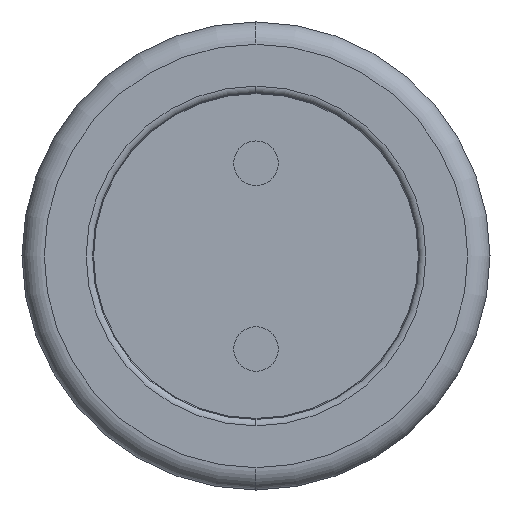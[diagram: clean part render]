
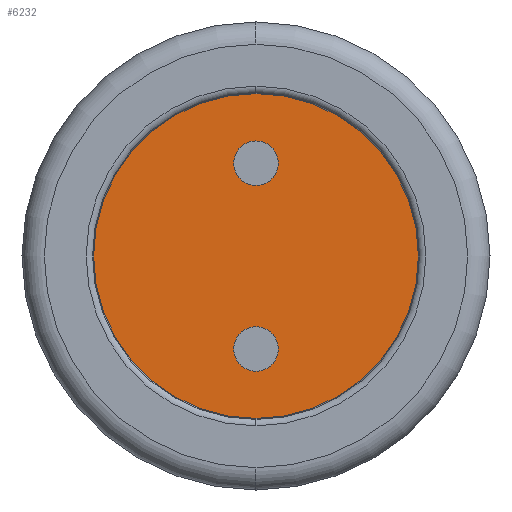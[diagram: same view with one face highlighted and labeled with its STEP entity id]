
A CAD part, left-side view. The second image highlights one B-rep face of the part: STEP entity #6232.
In plain terms, the highlighted planar face has unit normal (-1, 0, 0).
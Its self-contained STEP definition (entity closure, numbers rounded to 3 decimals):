
#40=CARTESIAN_POINT('',(-12.3,0.,0.002));
#41=DIRECTION('',(-1.,0.,0.));
#42=DIRECTION('',(0.,0.,-1.));
#43=AXIS2_PLACEMENT_3D('',#40,#41,#42);
#45=CARTESIAN_POINT('',(-12.3,0.,0.002));
#46=DIRECTION('',(1.,0.,0.));
#47=DIRECTION('',(0.,0.,-1.));
#48=AXIS2_PLACEMENT_3D('',#45,#46,#47);
#50=CARTESIAN_POINT('',(-12.3,0.,-1.25));
#51=DIRECTION('',(-1.,0.,0.));
#52=DIRECTION('',(0.,0.,-1.));
#53=AXIS2_PLACEMENT_3D('',#50,#51,#52);
#55=CARTESIAN_POINT('',(-12.3,0.,-1.25));
#56=DIRECTION('',(-1.,0.,0.));
#57=DIRECTION('',(0.,0.,1.));
#58=AXIS2_PLACEMENT_3D('',#55,#56,#57);
#60=CARTESIAN_POINT('',(-12.3,0.,1.25));
#61=DIRECTION('',(-1.,0.,0.));
#62=DIRECTION('',(0.,0.,-1.));
#63=AXIS2_PLACEMENT_3D('',#60,#61,#62);
#65=CARTESIAN_POINT('',(-12.3,0.,1.25));
#66=DIRECTION('',(-1.,0.,0.));
#67=DIRECTION('',(0.,0.,1.));
#68=AXIS2_PLACEMENT_3D('',#65,#66,#67);
#4685=CARTESIAN_POINT('',(-12.3,0.,-2.198));
#4686=VERTEX_POINT('',#4685);
#4687=CARTESIAN_POINT('',(-12.3,0.,2.202));
#4688=VERTEX_POINT('',#4687);
#4693=CARTESIAN_POINT('',(-12.3,0.,-1.55));
#4694=CARTESIAN_POINT('',(-12.3,0.,-0.95));
#4695=VERTEX_POINT('',#4693);
#4696=VERTEX_POINT('',#4694);
#4697=CARTESIAN_POINT('',(-12.3,0.,0.95));
#4698=CARTESIAN_POINT('',(-12.3,0.,1.55));
#4699=VERTEX_POINT('',#4697);
#4700=VERTEX_POINT('',#4698);
#6211=CARTESIAN_POINT('',(-12.3,0.,0.002));
#6212=DIRECTION('',(1.,0.,0.));
#6213=DIRECTION('',(0.,0.,1.));
#6214=AXIS2_PLACEMENT_3D('',#6211,#6212,#6213);
#6215=PLANE('',#6214);
#6216=ORIENTED_EDGE('',*,*,#6190,.F.);
#6217=ORIENTED_EDGE('',*,*,#6206,.T.);
#6218=EDGE_LOOP('',(#6216,#6217));
#6219=FACE_OUTER_BOUND('',#6218,.F.);
#6221=ORIENTED_EDGE('',*,*,#6220,.T.);
#6223=ORIENTED_EDGE('',*,*,#6222,.T.);
#6224=EDGE_LOOP('',(#6221,#6223));
#6225=FACE_BOUND('',#6224,.F.);
#6227=ORIENTED_EDGE('',*,*,#6226,.T.);
#6229=ORIENTED_EDGE('',*,*,#6228,.T.);
#6230=EDGE_LOOP('',(#6227,#6229));
#6231=FACE_BOUND('',#6230,.F.);
#6232=ADVANCED_FACE('',(#6219,#6225,#6231),#6215,.F.);
#44=CIRCLE('',#43,2.2);
#49=CIRCLE('',#48,2.2);
#54=CIRCLE('',#53,0.3);
#59=CIRCLE('',#58,0.3);
#64=CIRCLE('',#63,0.3);
#69=CIRCLE('',#68,0.3);
#6190=EDGE_CURVE('',#4686,#4688,#44,.T.);
#6206=EDGE_CURVE('',#4686,#4688,#49,.T.);
#6220=EDGE_CURVE('',#4695,#4696,#54,.T.);
#6222=EDGE_CURVE('',#4696,#4695,#59,.T.);
#6226=EDGE_CURVE('',#4699,#4700,#64,.T.);
#6228=EDGE_CURVE('',#4700,#4699,#69,.T.);
